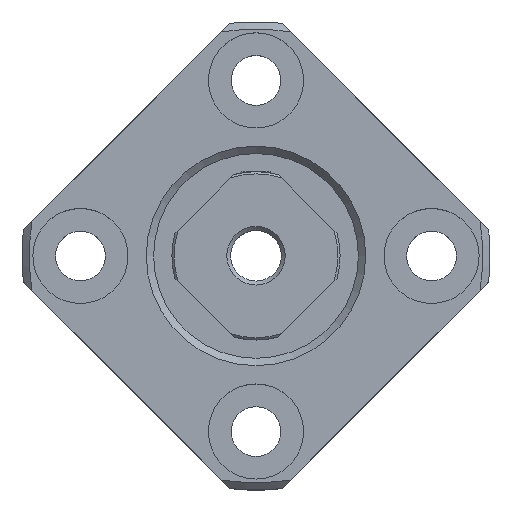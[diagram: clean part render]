
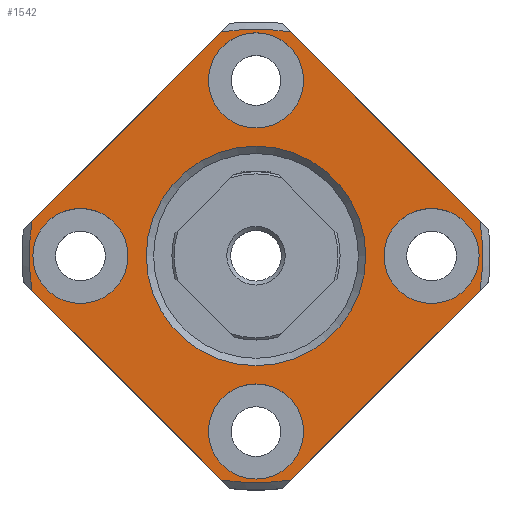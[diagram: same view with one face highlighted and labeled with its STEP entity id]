
A CAD part, top view. The second image highlights one B-rep face of the part: STEP entity #1542.
In plain terms, the highlighted planar face has unit normal (0, 0, 1) as drawn and (-1, 0, 0) by its records, which use the part's own axes.
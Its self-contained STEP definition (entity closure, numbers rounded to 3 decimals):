
#134=LINE('',#2383,#216);
#135=LINE('',#2388,#217);
#136=LINE('',#2392,#218);
#137=LINE('',#2396,#219);
#216=VECTOR('',#1900,1000.);
#217=VECTOR('',#1903,1000.);
#218=VECTOR('',#1906,1000.);
#219=VECTOR('',#1909,1000.);
#300=ORIENTED_EDGE('',*,*,#720,.T.);
#301=ORIENTED_EDGE('',*,*,#721,.T.);
#302=ORIENTED_EDGE('',*,*,#722,.T.);
#303=ORIENTED_EDGE('',*,*,#723,.T.);
#304=ORIENTED_EDGE('',*,*,#724,.F.);
#305=ORIENTED_EDGE('',*,*,#725,.F.);
#306=ORIENTED_EDGE('',*,*,#726,.F.);
#307=ORIENTED_EDGE('',*,*,#727,.F.);
#308=ORIENTED_EDGE('',*,*,#728,.F.);
#309=ORIENTED_EDGE('',*,*,#729,.F.);
#310=ORIENTED_EDGE('',*,*,#730,.F.);
#311=ORIENTED_EDGE('',*,*,#731,.F.);
#312=ORIENTED_EDGE('',*,*,#732,.T.);
#720=EDGE_CURVE('',#930,#930,#1086,.T.);
#721=EDGE_CURVE('',#931,#931,#1087,.T.);
#722=EDGE_CURVE('',#932,#932,#1088,.T.);
#723=EDGE_CURVE('',#933,#933,#1089,.T.);
#724=EDGE_CURVE('',#934,#935,#134,.T.);
#725=EDGE_CURVE('',#936,#934,#1090,.T.);
#726=EDGE_CURVE('',#937,#936,#135,.T.);
#727=EDGE_CURVE('',#938,#937,#1091,.T.);
#728=EDGE_CURVE('',#939,#938,#136,.T.);
#729=EDGE_CURVE('',#940,#939,#1092,.T.);
#730=EDGE_CURVE('',#941,#940,#137,.T.);
#731=EDGE_CURVE('',#935,#941,#1093,.T.);
#732=EDGE_CURVE('',#942,#942,#1094,.T.);
#930=VERTEX_POINT('',#2376);
#931=VERTEX_POINT('',#2378);
#932=VERTEX_POINT('',#2380);
#933=VERTEX_POINT('',#2382);
#934=VERTEX_POINT('',#2384);
#935=VERTEX_POINT('',#2385);
#936=VERTEX_POINT('',#2387);
#937=VERTEX_POINT('',#2389);
#938=VERTEX_POINT('',#2391);
#939=VERTEX_POINT('',#2393);
#940=VERTEX_POINT('',#2395);
#941=VERTEX_POINT('',#2397);
#942=VERTEX_POINT('',#2400);
#1086=CIRCLE('',#1685,3.25);
#1087=CIRCLE('',#1686,3.25);
#1088=CIRCLE('',#1687,3.25);
#1089=CIRCLE('',#1688,3.25);
#1090=CIRCLE('',#1689,15.5);
#1091=CIRCLE('',#1690,15.5);
#1092=CIRCLE('',#1691,15.5);
#1093=CIRCLE('',#1692,15.5);
#1094=CIRCLE('',#1693,7.5);
#1180=EDGE_LOOP('',(#300));
#1181=EDGE_LOOP('',(#301));
#1182=EDGE_LOOP('',(#302));
#1183=EDGE_LOOP('',(#303));
#1184=EDGE_LOOP('',(#304,#305,#306,#307,#308,#309,#310,#311));
#1185=EDGE_LOOP('',(#312));
#1340=FACE_BOUND('',#1180,.T.);
#1341=FACE_BOUND('',#1181,.T.);
#1342=FACE_BOUND('',#1182,.T.);
#1343=FACE_BOUND('',#1183,.T.);
#1344=FACE_BOUND('',#1184,.T.);
#1345=FACE_BOUND('',#1185,.T.);
#1499=PLANE('',#1684);
#1542=ADVANCED_FACE('',(#1340,#1341,#1342,#1343,#1344,#1345),#1499,.F.);
#1684=AXIS2_PLACEMENT_3D('',#2374,#1890,#1891);
#1685=AXIS2_PLACEMENT_3D('',#2375,#1892,#1893);
#1686=AXIS2_PLACEMENT_3D('',#2377,#1894,#1895);
#1687=AXIS2_PLACEMENT_3D('',#2379,#1896,#1897);
#1688=AXIS2_PLACEMENT_3D('',#2381,#1898,#1899);
#1689=AXIS2_PLACEMENT_3D('',#2386,#1901,#1902);
#1690=AXIS2_PLACEMENT_3D('',#2390,#1904,#1905);
#1691=AXIS2_PLACEMENT_3D('',#2394,#1907,#1908);
#1692=AXIS2_PLACEMENT_3D('',#2398,#1910,#1911);
#1693=AXIS2_PLACEMENT_3D('',#2399,#1912,#1913);
#1890=DIRECTION('',(1.,0.,0.));
#1891=DIRECTION('',(0.,0.,-1.));
#1892=DIRECTION('',(1.,0.,0.));
#1893=DIRECTION('',(0.,0.,-1.));
#1894=DIRECTION('',(1.,0.,0.));
#1895=DIRECTION('',(0.,0.,-1.));
#1896=DIRECTION('',(1.,0.,0.));
#1897=DIRECTION('',(0.,0.,-1.));
#1898=DIRECTION('',(1.,0.,0.));
#1899=DIRECTION('',(0.,0.,-1.));
#1900=DIRECTION('',(0.,-0.707,0.707));
#1901=DIRECTION('',(1.,0.,0.));
#1902=DIRECTION('',(0.,0.,-1.));
#1903=DIRECTION('',(0.,0.707,0.707));
#1904=DIRECTION('',(1.,0.,0.));
#1905=DIRECTION('',(0.,0.,-1.));
#1906=DIRECTION('',(0.,0.707,-0.707));
#1907=DIRECTION('',(1.,0.,0.));
#1908=DIRECTION('',(0.,0.,-1.));
#1909=DIRECTION('',(0.,-0.707,-0.707));
#1910=DIRECTION('',(1.,0.,0.));
#1911=DIRECTION('',(0.,0.,-1.));
#1912=DIRECTION('',(1.,0.,0.));
#1913=DIRECTION('',(0.,0.,-1.));
#2374=CARTESIAN_POINT('',(-6.,0.,0.));
#2375=CARTESIAN_POINT('',(-6.,0.,12.));
#2376=CARTESIAN_POINT('',(-6.,0.,8.75));
#2377=CARTESIAN_POINT('',(-6.,-12.,0.));
#2378=CARTESIAN_POINT('',(-6.,-12.,-3.25));
#2379=CARTESIAN_POINT('',(-6.,0.,-12.));
#2380=CARTESIAN_POINT('',(-6.,0.,-15.25));
#2381=CARTESIAN_POINT('',(-6.,12.,0.));
#2382=CARTESIAN_POINT('',(-6.,12.,-3.25));
#2383=CARTESIAN_POINT('',(-6.,17.678,0.));
#2384=CARTESIAN_POINT('',(-6.,15.32,2.358));
#2385=CARTESIAN_POINT('',(-6.,2.358,15.32));
#2386=CARTESIAN_POINT('',(-6.,0.,0.));
#2387=CARTESIAN_POINT('',(-6.,15.32,-2.358));
#2388=CARTESIAN_POINT('',(-6.,0.,-17.678));
#2389=CARTESIAN_POINT('',(-6.,2.358,-15.32));
#2390=CARTESIAN_POINT('',(-6.,0.,0.));
#2391=CARTESIAN_POINT('',(-6.,-2.358,-15.32));
#2392=CARTESIAN_POINT('',(-6.,-17.678,0.));
#2393=CARTESIAN_POINT('',(-6.,-15.32,-2.358));
#2394=CARTESIAN_POINT('',(-6.,0.,0.));
#2395=CARTESIAN_POINT('',(-6.,-15.32,2.358));
#2396=CARTESIAN_POINT('',(-6.,0.,17.678));
#2397=CARTESIAN_POINT('',(-6.,-2.358,15.32));
#2398=CARTESIAN_POINT('',(-6.,0.,0.));
#2399=CARTESIAN_POINT('',(-6.,0.,0.));
#2400=CARTESIAN_POINT('',(-6.,0.,-7.5));
